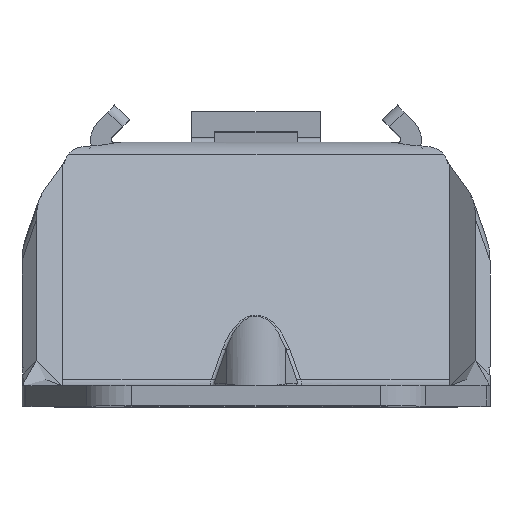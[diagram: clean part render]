
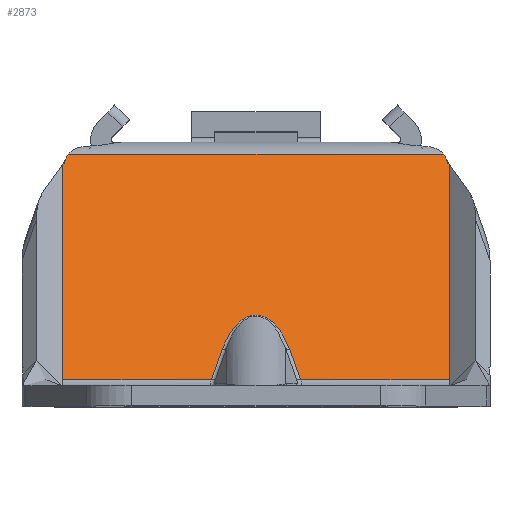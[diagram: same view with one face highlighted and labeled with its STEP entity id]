
A CAD part, top view. The second image highlights one B-rep face of the part: STEP entity #2873.
In plain terms, the highlighted planar face has unit normal (0, 0.742, 0.671).
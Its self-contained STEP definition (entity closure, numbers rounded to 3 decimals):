
#674=CARTESIAN_POINT('',(-9.239,12.49,-30.833));
#682=DIRECTION('',(-1.,0.,0.));
#683=VECTOR('',#682,18.478);
#684=CARTESIAN_POINT('',(9.239,12.49,-30.833));
#685=LINE('',#684,#683);
#686=CARTESIAN_POINT('',(9.26,12.463,-30.802));
#687=CARTESIAN_POINT('',(9.257,12.467,-30.807));
#688=CARTESIAN_POINT('',(9.25,12.477,-30.818));
#689=CARTESIAN_POINT('',(9.243,12.486,-30.828));
#690=CARTESIAN_POINT('',(9.239,12.49,-30.833));
#692=CARTESIAN_POINT('',(9.396,12.242,-30.558));
#693=CARTESIAN_POINT('',(9.36,12.318,-30.642));
#694=CARTESIAN_POINT('',(9.315,12.392,-30.724));
#695=CARTESIAN_POINT('',(9.26,12.463,-30.802));
#697=DIRECTION('',(-0.302,0.64,-0.707));
#698=VECTOR('',#697,0.429);
#699=CARTESIAN_POINT('',(9.525,11.967,-30.254));
#700=LINE('',#699,#698);
#701=DIRECTION('',(0.,0.671,-0.742));
#702=VECTOR('',#701,15.833);
#703=CARTESIAN_POINT('',(9.525,1.344,-18.513));
#704=LINE('',#703,#702);
#705=DIRECTION('',(1.,0.,0.));
#706=VECTOR('',#705,7.329);
#707=CARTESIAN_POINT('',(2.196,1.344,-18.513));
#708=LINE('',#707,#706);
#709=DIRECTION('',(-0.233,0.652,-0.721));
#710=VECTOR('',#709,2.283);
#711=CARTESIAN_POINT('',(2.196,1.344,-18.513));
#712=LINE('',#711,#710);
#713=CARTESIAN_POINT('',(1.665,2.834,-20.16));
#714=CARTESIAN_POINT('',(1.632,2.926,-20.262));
#715=CARTESIAN_POINT('',(1.56,3.111,-20.467));
#716=CARTESIAN_POINT('',(1.426,3.397,-20.782));
#717=CARTESIAN_POINT('',(1.272,3.665,-21.079));
#718=CARTESIAN_POINT('',(1.102,3.906,-21.344));
#719=CARTESIAN_POINT('',(0.922,4.108,-21.568));
#720=CARTESIAN_POINT('',(0.732,4.274,-21.752));
#721=CARTESIAN_POINT('',(0.527,4.406,-21.897));
#722=CARTESIAN_POINT('',(0.309,4.495,-21.996));
#723=CARTESIAN_POINT('',(0.092,4.537,-22.042));
#724=CARTESIAN_POINT('',(-0.116,4.534,
-22.039));
#725=CARTESIAN_POINT('',(-0.333,4.488,
-21.988));
#726=CARTESIAN_POINT('',(-0.538,4.398,
-21.888));
#727=CARTESIAN_POINT('',(-0.703,4.292,
-21.772));
#728=CARTESIAN_POINT('',(-0.858,4.165,
-21.631));
#729=CARTESIAN_POINT('',(-0.993,4.029,
-21.48));
#730=CARTESIAN_POINT('',(-1.11,3.889,-21.326));
#731=CARTESIAN_POINT('',(-1.206,3.759,-21.182));
#732=CARTESIAN_POINT('',(-1.305,3.607,-21.014));
#733=CARTESIAN_POINT('',(-1.4,3.44,-20.829));
#734=CARTESIAN_POINT('',(-1.493,3.256,-20.626));
#735=CARTESIAN_POINT('',(-1.582,3.055,-20.404));
#736=CARTESIAN_POINT('',(-1.638,2.91,-20.244));
#737=CARTESIAN_POINT('',(-1.665,2.834,-20.16));
#739=DIRECTION('',(-0.233,-0.652,0.721));
#740=VECTOR('',#739,2.283);
#741=CARTESIAN_POINT('',(-1.665,2.834,-20.16));
#742=LINE('',#741,#740);
#743=DIRECTION('',(1.,0.,0.));
#744=VECTOR('',#743,7.329);
#745=CARTESIAN_POINT('',(-9.525,1.344,-18.513));
#746=LINE('',#745,#744);
#747=DIRECTION('',(0.,0.671,-0.742));
#748=VECTOR('',#747,15.833);
#749=CARTESIAN_POINT('',(-9.525,1.344,-18.513));
#750=LINE('',#749,#748);
#751=DIRECTION('',(0.302,0.64,-0.707));
#752=VECTOR('',#751,0.429);
#753=CARTESIAN_POINT('',(-9.525,11.967,-30.254));
#754=LINE('',#753,#752);
#755=CARTESIAN_POINT('',(-9.26,12.463,-30.802));
#756=CARTESIAN_POINT('',(-9.315,12.392,-30.724));
#757=CARTESIAN_POINT('',(-9.36,12.318,-30.642));
#758=CARTESIAN_POINT('',(-9.396,12.242,-30.558));
#760=CARTESIAN_POINT('',(-9.239,12.49,-30.833));
#761=CARTESIAN_POINT('',(-9.243,12.486,-30.828));
#762=CARTESIAN_POINT('',(-9.25,12.477,-30.818));
#763=CARTESIAN_POINT('',(-9.257,12.467,-30.807));
#764=CARTESIAN_POINT('',(-9.26,12.463,-30.802));
#772=CARTESIAN_POINT('',(9.239,12.49,-30.833));
#1851=CARTESIAN_POINT('',(9.525,1.344,-18.513));
#1852=VERTEX_POINT('',#1851);
#1854=CARTESIAN_POINT('',(-9.525,1.344,-18.513));
#1856=VERTEX_POINT('',#1854);
#1863=CARTESIAN_POINT('',(9.525,11.967,-30.254));
#1864=VERTEX_POINT('',#1863);
#1865=CARTESIAN_POINT('',(-9.525,11.967,-30.254));
#1866=VERTEX_POINT('',#1865);
#1867=VERTEX_POINT('',#755);
#1868=VERTEX_POINT('',#758);
#1876=CARTESIAN_POINT('',(9.396,12.242,-30.558));
#1877=VERTEX_POINT('',#1876);
#1878=VERTEX_POINT('',#695);
#1963=VERTEX_POINT('',#713);
#1964=VERTEX_POINT('',#737);
#1967=CARTESIAN_POINT('',(-2.196,1.344,
-18.513));
#1968=VERTEX_POINT('',#1967);
#1983=CARTESIAN_POINT('',(2.196,1.344,-18.513));
#1984=VERTEX_POINT('',#1983);
#2131=VERTEX_POINT('',#674);
#2137=VERTEX_POINT('',#772);
#2843=CARTESIAN_POINT('',(-9.525,13.081,-31.486));
#2844=DIRECTION('',(0.,0.742,0.671));
#2845=DIRECTION('',(0.,-0.671,0.742));
#2846=AXIS2_PLACEMENT_3D('',#2843,#2844,#2845);
#2847=PLANE('',#2846);
#2848=ORIENTED_EDGE('',*,*,#2811,.F.);
#2850=ORIENTED_EDGE('',*,*,#2849,.F.);
#2851=ORIENTED_EDGE('',*,*,#2696,.F.);
#2852=ORIENTED_EDGE('',*,*,#2683,.F.);
#2853=ORIENTED_EDGE('',*,*,#2649,.F.);
#2855=ORIENTED_EDGE('',*,*,#2854,.F.);
#2857=ORIENTED_EDGE('',*,*,#2856,.T.);
#2859=ORIENTED_EDGE('',*,*,#2858,.T.);
#2861=ORIENTED_EDGE('',*,*,#2860,.T.);
#2863=ORIENTED_EDGE('',*,*,#2862,.F.);
#2865=ORIENTED_EDGE('',*,*,#2864,.T.);
#2867=ORIENTED_EDGE('',*,*,#2866,.T.);
#2869=ORIENTED_EDGE('',*,*,#2868,.F.);
#2870=ORIENTED_EDGE('',*,*,#2834,.F.);
#2871=EDGE_LOOP('',(#2848,#2850,#2851,#2852,#2853,#2855,#2857,#2859,#2861,#2863,
#2865,#2867,#2869,#2870));
#2872=FACE_OUTER_BOUND('',#2871,.F.);
#2873=ADVANCED_FACE('',(#2872),#2847,.T.);
#691=B_SPLINE_CURVE_WITH_KNOTS('',3,(#686,#687,#688,#689,#690),.UNSPECIFIED.,
.F.,.F.,(4,1,4),(0.,0.5,1.),.UNSPECIFIED.);
#696=B_SPLINE_CURVE_WITH_KNOTS('',3,(#692,#693,#694,#695),.UNSPECIFIED.,.F.,.F.,
(4,4),(0.,1.),.UNSPECIFIED.);
#738=B_SPLINE_CURVE_WITH_KNOTS('',3,(#713,#714,#715,#716,#717,#718,#719,#720,
#721,#722,#723,#724,#725,#726,#727,#728,#729,#730,#731,#732,#733,#734,#735,#736,
#737),.UNSPECIFIED.,.F.,.F.,(4,1,1,1,1,1,1,1,1,1,1,1,1,1,1,1,1,1,1,1,1,1,4),(
0.,0.045,0.091,0.136,0.182,
0.227,0.273,0.318,0.364,
0.409,0.455,0.5,0.545,0.591,
0.636,0.682,0.727,0.773,
0.818,0.864,0.909,0.955,1.),
.UNSPECIFIED.);
#759=B_SPLINE_CURVE_WITH_KNOTS('',3,(#755,#756,#757,#758),.UNSPECIFIED.,.F.,.F.,
(4,4),(0.,1.),.UNSPECIFIED.);
#765=B_SPLINE_CURVE_WITH_KNOTS('',3,(#760,#761,#762,#763,#764),.UNSPECIFIED.,
.F.,.F.,(4,1,4),(0.,0.5,1.),.UNSPECIFIED.);
#2649=EDGE_CURVE('',#1852,#1864,#704,.T.);
#2683=EDGE_CURVE('',#1864,#1877,#700,.T.);
#2696=EDGE_CURVE('',#1877,#1878,#696,.T.);
#2811=EDGE_CURVE('',#2137,#2131,#685,.T.);
#2834=EDGE_CURVE('',#2131,#1867,#765,.T.);
#2849=EDGE_CURVE('',#1878,#2137,#691,.T.);
#2854=EDGE_CURVE('',#1984,#1852,#708,.T.);
#2856=EDGE_CURVE('',#1984,#1963,#712,.T.);
#2858=EDGE_CURVE('',#1963,#1964,#738,.T.);
#2860=EDGE_CURVE('',#1964,#1968,#742,.T.);
#2862=EDGE_CURVE('',#1856,#1968,#746,.T.);
#2864=EDGE_CURVE('',#1856,#1866,#750,.T.);
#2866=EDGE_CURVE('',#1866,#1868,#754,.T.);
#2868=EDGE_CURVE('',#1867,#1868,#759,.T.);
